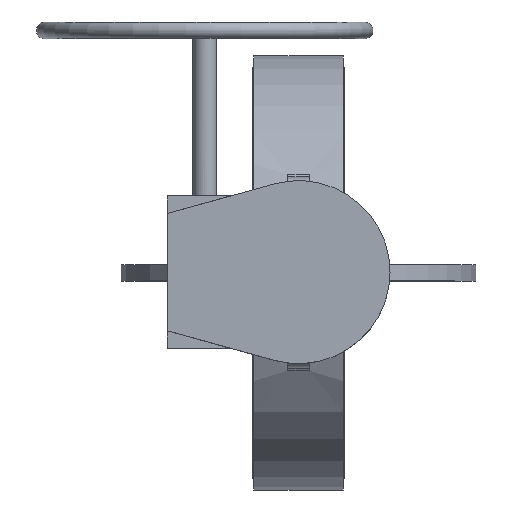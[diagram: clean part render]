
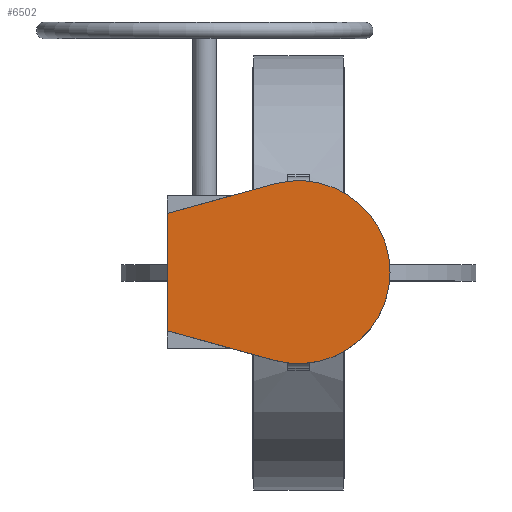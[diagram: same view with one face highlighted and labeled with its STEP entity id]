
A CAD part, top view. The second image highlights one B-rep face of the part: STEP entity #6502.
In plain terms, the highlighted planar face has unit normal (0, 0, 1).
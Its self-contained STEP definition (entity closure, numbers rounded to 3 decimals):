
#6502=ADVANCED_FACE('',(#11746),#11748,.T.);
#11746=FACE_BOUND('',#11747,.T.);
#11747=EDGE_LOOP('',(#15941,#15942,#15943,#15944));
#11748=PLANE('',#11749);
#11749=AXIS2_PLACEMENT_3D('',#11750,#11751,#11752);
#11750=CARTESIAN_POINT('',(0.,0.,401.));
#11751=DIRECTION('',(0.,0.,1.));
#11752=DIRECTION('',(0.,1.,0.));
#15941=ORIENTED_EDGE('',*,*,#18061,.T.);
#15942=ORIENTED_EDGE('',*,*,#18057,.T.);
#15943=ORIENTED_EDGE('',*,*,#18050,.T.);
#15944=ORIENTED_EDGE('',*,*,#18045,.T.);
#18045=EDGE_CURVE('',#21496,#21494,#21497,.T.);
#18050=EDGE_CURVE('',#21504,#21496,#21505,.T.);
#18057=EDGE_CURVE('',#21517,#21504,#21518,.T.);
#18061=EDGE_CURVE('',#21494,#21517,#21523,.T.);
#21494=VERTEX_POINT('',#31386);
#21496=VERTEX_POINT('',#31390);
#21497=LINE('',#31391,#31392);
#21504=VERTEX_POINT('',#31408);
#21505=LINE('',#31409,#31410);
#21517=VERTEX_POINT('',#31435);
#21518=LINE('',#31436,#31437);
#21523=CIRCLE('',#31449,78.);
#31386=CARTESIAN_POINT('',(-20.755,-75.188,401.));
#31390=CARTESIAN_POINT('',(-112.,-50.,401.));
#31391=CARTESIAN_POINT('',(-112.,-50.,401.));
#31392=VECTOR('',#31393,1.);
#31393=DIRECTION('',(0.964,-0.266,0.));
#31408=CARTESIAN_POINT('',(-112.,50.,401.));
#31409=CARTESIAN_POINT('',(-112.,50.,401.));
#31410=VECTOR('',#31411,1.);
#31411=DIRECTION('',(0.,-1.,0.));
#31435=CARTESIAN_POINT('',(-20.755,75.188,401.));
#31436=CARTESIAN_POINT('',(-20.755,75.188,401.));
#31437=VECTOR('',#31438,1.);
#31438=DIRECTION('',(-0.964,-0.266,0.));
#31449=AXIS2_PLACEMENT_3D('',#31450,#31451,#31452);
#31450=CARTESIAN_POINT('',(0.,0.,401.));
#31451=DIRECTION('',(0.,0.,1.));
#31452=DIRECTION('',(-0.266,-0.964,0.));
